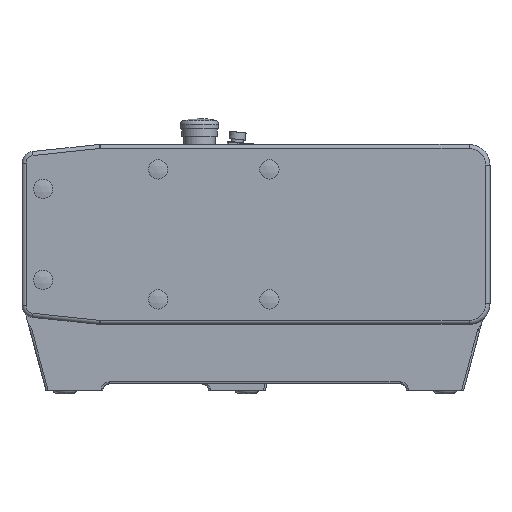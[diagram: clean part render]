
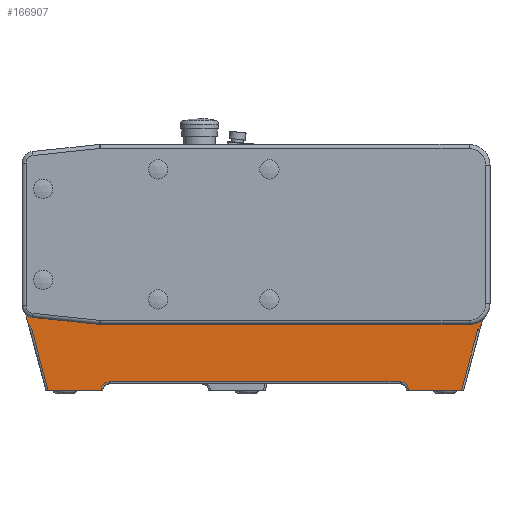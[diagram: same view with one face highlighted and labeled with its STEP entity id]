
A CAD part, left-side view. The second image highlights one B-rep face of the part: STEP entity #166907.
In plain terms, the highlighted planar face has unit normal (-1, 0, 0).
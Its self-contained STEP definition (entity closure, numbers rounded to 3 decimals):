
#2401=FACE_OUTER_BOUND('',#11362,.T.);
#11362=EDGE_LOOP('',(#112081,#112082,#112083,#112084,#112085,#112086,#112087,
#112088,#112089,#112090,#112091,#112092,#112093,#112094,#112095,#112096,
#112097,#112098,#112099,#112100));
#21482=LINE('',#234481,#44024);
#21483=LINE('',#234484,#44025);
#21489=LINE('',#234505,#44031);
#21491=LINE('',#234523,#44033);
#21496=LINE('',#234543,#44038);
#21497=LINE('',#234549,#44039);
#21498=LINE('',#234553,#44040);
#21499=LINE('',#234559,#44041);
#21500=LINE('',#234562,#44042);
#21501=LINE('',#234564,#44043);
#21502=LINE('',#234566,#44044);
#44024=VECTOR('',#189577,1.);
#44025=VECTOR('',#189580,1.);
#44031=VECTOR('',#189596,1.);
#44033=VECTOR('',#189618,1.);
#44038=VECTOR('',#189643,1.);
#44039=VECTOR('',#189648,1.);
#44040=VECTOR('',#189651,1.);
#44041=VECTOR('',#189656,1.);
#44042=VECTOR('',#189659,1.);
#44043=VECTOR('',#189660,1.);
#44044=VECTOR('',#189661,1.);
#65663=CIRCLE('',#176217,0.263);
#65670=CIRCLE('',#176233,0.263);
#65677=CIRCLE('',#176247,0.27);
#65678=CIRCLE('',#176248,0.645);
#65679=CIRCLE('',#176249,0.365);
#65680=CIRCLE('',#176250,0.365);
#65681=CIRCLE('',#176251,0.27);
#65682=CIRCLE('',#176252,0.362);
#65683=CIRCLE('',#176253,0.362);
#68555=VERTEX_POINT('',#234473);
#68556=VERTEX_POINT('',#234475);
#68557=VERTEX_POINT('',#234479);
#68558=VERTEX_POINT('',#234483);
#68567=VERTEX_POINT('',#234502);
#68568=VERTEX_POINT('',#234504);
#68573=VERTEX_POINT('',#234516);
#68578=VERTEX_POINT('',#234541);
#68579=VERTEX_POINT('',#234542);
#68580=VERTEX_POINT('',#234544);
#68581=VERTEX_POINT('',#234546);
#68582=VERTEX_POINT('',#234548);
#68583=VERTEX_POINT('',#234550);
#68584=VERTEX_POINT('',#234552);
#68585=VERTEX_POINT('',#234554);
#68586=VERTEX_POINT('',#234556);
#68587=VERTEX_POINT('',#234558);
#68588=VERTEX_POINT('',#234560);
#68589=VERTEX_POINT('',#234563);
#68590=VERTEX_POINT('',#234565);
#85611=EDGE_CURVE('',#68555,#68556,#65663,.T.);
#85614=EDGE_CURVE('',#68557,#68555,#21482,.T.);
#85615=EDGE_CURVE('',#68556,#68558,#21483,.T.);
#85625=EDGE_CURVE('',#68567,#68568,#21489,.T.);
#85631=EDGE_CURVE('',#68558,#68573,#65670,.T.);
#85635=EDGE_CURVE('',#68573,#68567,#21491,.T.);
#85644=EDGE_CURVE('',#68578,#68579,#21496,.T.);
#85645=EDGE_CURVE('',#68580,#68579,#65677,.T.);
#85646=EDGE_CURVE('',#68580,#68581,#65678,.T.);
#85647=EDGE_CURVE('',#68581,#68582,#21497,.T.);
#85648=EDGE_CURVE('',#68582,#68583,#65679,.T.);
#85649=EDGE_CURVE('',#68583,#68584,#21498,.T.);
#85650=EDGE_CURVE('',#68584,#68585,#65680,.T.);
#85651=EDGE_CURVE('',#68586,#68585,#65681,.T.);
#85652=EDGE_CURVE('',#68586,#68587,#21499,.T.);
#85653=EDGE_CURVE('',#68588,#68587,#65682,.T.);
#85654=EDGE_CURVE('',#68588,#68568,#21500,.T.);
#85655=EDGE_CURVE('',#68589,#68557,#21501,.T.);
#85656=EDGE_CURVE('',#68589,#68590,#21502,.T.);
#85657=EDGE_CURVE('',#68578,#68590,#65683,.T.);
#112081=ORIENTED_EDGE('',*,*,#85644,.T.);
#112082=ORIENTED_EDGE('',*,*,#85645,.F.);
#112083=ORIENTED_EDGE('',*,*,#85646,.T.);
#112084=ORIENTED_EDGE('',*,*,#85647,.T.);
#112085=ORIENTED_EDGE('',*,*,#85648,.T.);
#112086=ORIENTED_EDGE('',*,*,#85649,.T.);
#112087=ORIENTED_EDGE('',*,*,#85650,.T.);
#112088=ORIENTED_EDGE('',*,*,#85651,.F.);
#112089=ORIENTED_EDGE('',*,*,#85652,.T.);
#112090=ORIENTED_EDGE('',*,*,#85653,.F.);
#112091=ORIENTED_EDGE('',*,*,#85654,.T.);
#112092=ORIENTED_EDGE('',*,*,#85625,.F.);
#112093=ORIENTED_EDGE('',*,*,#85635,.F.);
#112094=ORIENTED_EDGE('',*,*,#85631,.F.);
#112095=ORIENTED_EDGE('',*,*,#85615,.F.);
#112096=ORIENTED_EDGE('',*,*,#85611,.F.);
#112097=ORIENTED_EDGE('',*,*,#85614,.F.);
#112098=ORIENTED_EDGE('',*,*,#85655,.F.);
#112099=ORIENTED_EDGE('',*,*,#85656,.T.);
#112100=ORIENTED_EDGE('',*,*,#85657,.F.);
#158843=PLANE('',#176246);
#166907=ADVANCED_FACE('',(#2401),#158843,.F.);
#176217=AXIS2_PLACEMENT_3D('',#234476,#189569,#189570);
#176233=AXIS2_PLACEMENT_3D('',#234517,#189609,#189610);
#176246=AXIS2_PLACEMENT_3D('',#234540,#189641,#189642);
#176247=AXIS2_PLACEMENT_3D('',#234545,#189644,#189645);
#176248=AXIS2_PLACEMENT_3D('',#234547,#189646,#189647);
#176249=AXIS2_PLACEMENT_3D('',#234551,#189649,#189650);
#176250=AXIS2_PLACEMENT_3D('',#234555,#189652,#189653);
#176251=AXIS2_PLACEMENT_3D('',#234557,#189654,#189655);
#176252=AXIS2_PLACEMENT_3D('',#234561,#189657,#189658);
#176253=AXIS2_PLACEMENT_3D('',#234567,#189662,#189663);
#189569=DIRECTION('center_axis',(-1.,0.,0.));
#189570=DIRECTION('ref_axis',(0.,-0.609,
0.793));
#189577=DIRECTION('',(0.,0.259,0.966));
#189580=DIRECTION('',(0.,1.,0.));
#189596=DIRECTION('',(0.,1.,0.));
#189609=DIRECTION('center_axis',(-1.,0.,0.));
#189610=DIRECTION('ref_axis',(0.,0.609,0.793));
#189618=DIRECTION('',(0.,0.259,-0.966));
#189641=DIRECTION('center_axis',(1.,0.,0.));
#189642=DIRECTION('ref_axis',(0.,0.,-1.));
#189643=DIRECTION('',(0.,-0.259,0.966));
#189644=DIRECTION('center_axis',(-1.,0.,0.));
#189645=DIRECTION('ref_axis',(0.,0.871,0.491));
#189646=DIRECTION('center_axis',(1.,0.,0.));
#189647=DIRECTION('ref_axis',(0.,-0.707,
-0.707));
#189648=DIRECTION('',(0.,1.,0.));
#189649=DIRECTION('center_axis',(1.,0.,0.));
#189650=DIRECTION('ref_axis',(0.,0.052,-0.999));
#189651=DIRECTION('',(0.,0.995,0.104));
#189652=DIRECTION('center_axis',(1.,0.,0.));
#189653=DIRECTION('ref_axis',(0.,0.743,-0.669));
#189654=DIRECTION('center_axis',(-1.,0.,0.));
#189655=DIRECTION('ref_axis',(0.,-0.895,0.446));
#189656=DIRECTION('',(0.,-0.259,-0.966));
#189657=DIRECTION('center_axis',(-1.,0.,0.));
#189658=DIRECTION('ref_axis',(0.,0.,
1.));
#189659=DIRECTION('',(0.,-0.259,-0.966));
#189660=DIRECTION('',(0.,1.,0.));
#189661=DIRECTION('',(0.,-0.259,0.966));
#189662=DIRECTION('center_axis',(-1.,0.,0.));
#189663=DIRECTION('ref_axis',(0.,0.,
1.));
#234473=CARTESIAN_POINT('',(-6.768,51.661,6.597));
#234475=CARTESIAN_POINT('',(-6.768,51.915,6.791));
#234476=CARTESIAN_POINT('Origin',(-6.768,51.915,6.529));
#234479=CARTESIAN_POINT('',(-6.768,51.643,6.529));
#234481=CARTESIAN_POINT('',(-6.768,51.915,7.543));
#234483=CARTESIAN_POINT('',(-6.768,60.851,6.791));
#234484=CARTESIAN_POINT('',(-6.768,56.285,6.791));
#234502=CARTESIAN_POINT('',(-6.768,61.122,6.529));
#234504=CARTESIAN_POINT('',(-6.768,62.743,6.529));
#234505=CARTESIAN_POINT('',(-6.768,51.553,6.529));
#234516=CARTESIAN_POINT('',(-6.768,61.104,6.597));
#234517=CARTESIAN_POINT('Origin',(-6.768,60.851,6.529));
#234523=CARTESIAN_POINT('',(-6.768,60.844,7.569));
#234540=CARTESIAN_POINT('Origin',(-6.768,56.383,8.302));
#234541=CARTESIAN_POINT('',(-6.768,49.409,8.577));
#234542=CARTESIAN_POINT('',(-6.768,49.392,8.64));
#234543=CARTESIAN_POINT('',(-6.768,49.682,7.559));
#234544=CARTESIAN_POINT('',(-6.768,49.326,8.757));
#234545=CARTESIAN_POINT('Origin',(-6.768,49.131,8.57));
#234546=CARTESIAN_POINT('',(-6.768,49.791,8.559));
#234547=CARTESIAN_POINT('Origin',(-6.768,49.791,9.204));
#234548=CARTESIAN_POINT('',(-6.768,61.129,8.559));
#234549=CARTESIAN_POINT('',(-6.768,54.879,8.559));
#234550=CARTESIAN_POINT('',(-6.768,61.167,8.561));
#234551=CARTESIAN_POINT('Origin',(-6.768,61.129,8.924));
#234552=CARTESIAN_POINT('',(-6.768,63.219,8.776));
#234553=CARTESIAN_POINT('',(-6.768,59.813,8.419));
#234554=CARTESIAN_POINT('',(-6.768,63.469,8.915));
#234555=CARTESIAN_POINT('Origin',(-6.768,63.181,9.139));
#234556=CARTESIAN_POINT('',(-6.768,63.421,8.818));
#234557=CARTESIAN_POINT('Origin',(-6.768,63.682,8.749));
#234558=CARTESIAN_POINT('',(-6.768,63.356,8.577));
#234559=CARTESIAN_POINT('',(-6.768,63.472,9.009));
#234560=CARTESIAN_POINT('',(-6.768,63.243,8.396));
#234561=CARTESIAN_POINT('Origin',(-6.768,63.593,8.303));
#234562=CARTESIAN_POINT('',(-6.768,63.243,8.396));
#234563=CARTESIAN_POINT('',(-6.768,50.022,6.529));
#234564=CARTESIAN_POINT('',(-6.768,50.708,6.529));
#234565=CARTESIAN_POINT('',(-6.768,49.522,8.396));
#234566=CARTESIAN_POINT('',(-6.768,49.522,8.396));
#234567=CARTESIAN_POINT('Origin',(-6.768,49.172,8.303));
